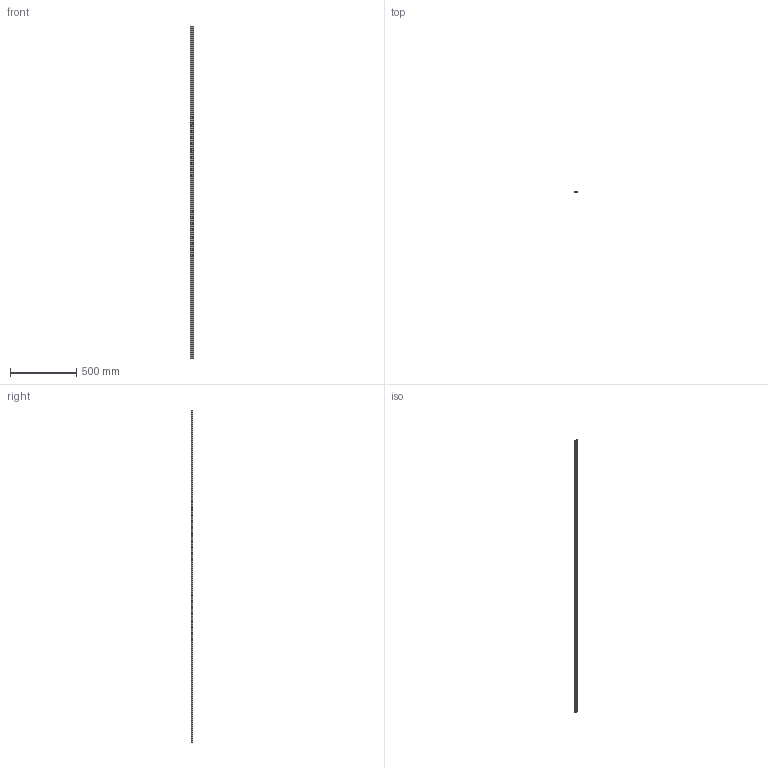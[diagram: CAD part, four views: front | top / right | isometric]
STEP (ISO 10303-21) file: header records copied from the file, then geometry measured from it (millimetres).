
FILE_DESCRIPTION (( 'STEP AP203' ), '1' );
FILE_NAME ('ChannelLine_G2_24.STEP', '2024-11-27T11:01:34', ( '' ), ( '' ), 'SwSTEP 2.0', 'SolidWorks 2023', '' );
FILE_SCHEMA (( 'CONFIG_CONTROL_DESIGN' ));
Length unit declared in the file: millimetre
Products named in the file (3): 2579097_2500; ChannelLine_G2_24; 2555597_2500
Assembly tree (2 placements, depth 2):
  ChannelLine_G2_24
    2555597_2500
    2579097_2500
Bounding box: 26 x 10.5 x 2500 mm (x, y, z)
Volume: 244737.8 mm3; surface area: 420318.6 mm2
Topology: 2 solids, 2 shells, 138 faces, 402 edges, 268 vertices
Faces by surface type: cylinder 81, plane 57
Entity records: 4933 total; most frequent: DIRECTION 850, CARTESIAN_POINT 813, ORIENTED_EDGE 804, EDGE_CURVE 402, AXIS2_PLACEMENT_3D 305, VERTEX_POINT 268, LINE 240, VECTOR 240
